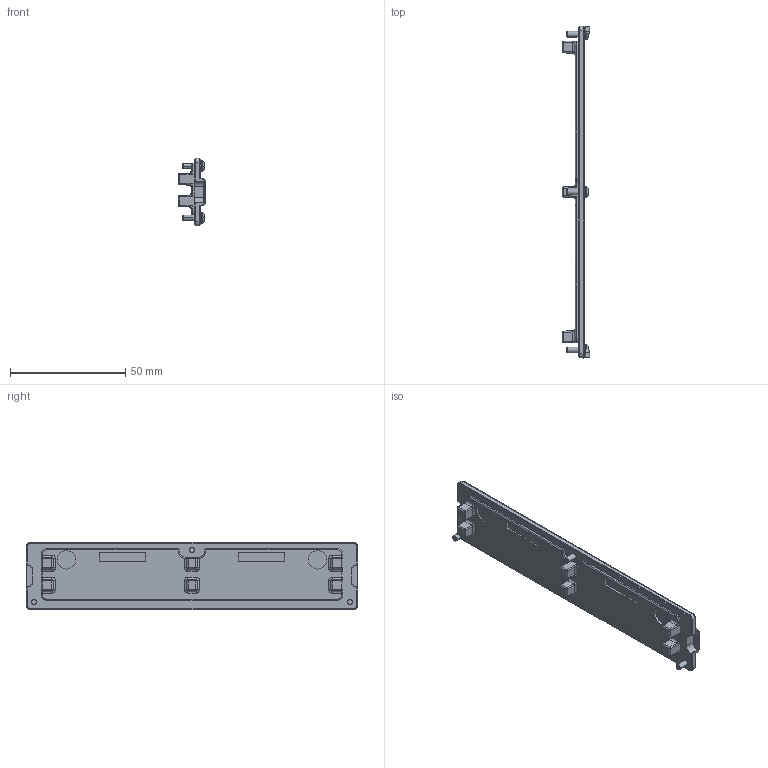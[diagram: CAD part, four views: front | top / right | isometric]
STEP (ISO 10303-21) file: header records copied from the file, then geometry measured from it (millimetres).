
FILE_DESCRIPTION((''),'2;1');
FILE_NAME('1_PX02_STEP_SW0001','2018-10-08T',('mellertr'),(''),'CREO PARAMETRIC BY PTC INC, 2017480','CREO PARAMETRIC BY PTC INC, 2017480','');
FILE_SCHEMA(('CONFIG_CONTROL_DESIGN'));
Length unit declared in the file: millimetre
Products named in the file (1): 1_PX02_STEP_SW0001
Bounding box: 11.76 x 144 x 29.5 mm (x, y, z)
Volume: 16416.2 mm3; surface area: 10893.9 mm2
Topology: 1 solids, 1 shells, 508 faces, 1227 edges, 732 vertices
Faces by surface type: bspline 508
Entity records: 28620 total; most frequent: CARTESIAN_POINT 16183, ORIENTED_EDGE 2446, DIRECTION 1551, EDGE_CURVE 1223, VERTEX_POINT 732, VECTOR 591, LINE 591, EDGE_LOOP 523
